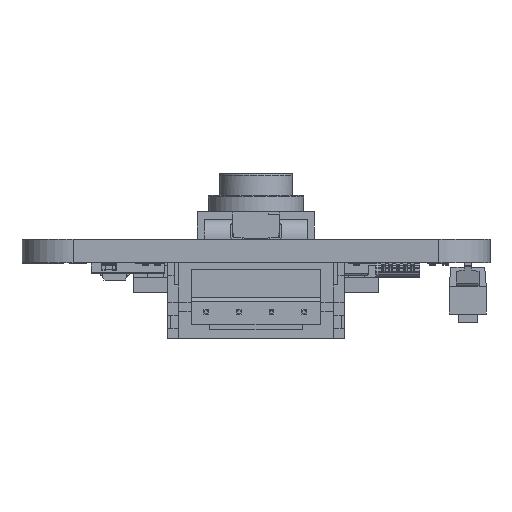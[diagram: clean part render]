
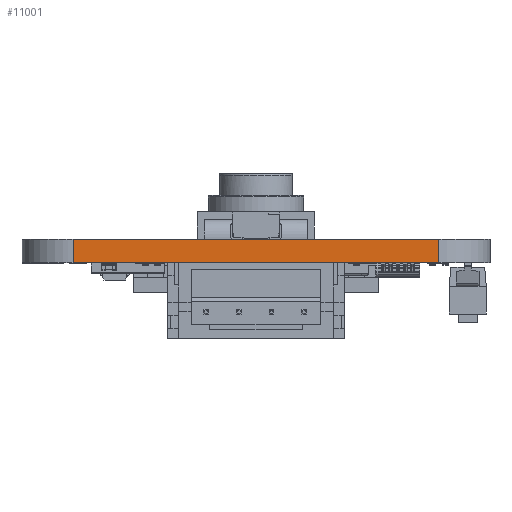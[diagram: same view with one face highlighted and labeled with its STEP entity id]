
A CAD part, front view. The second image highlights one B-rep face of the part: STEP entity #11001.
In plain terms, the highlighted planar face has unit normal (0, -1, 0).
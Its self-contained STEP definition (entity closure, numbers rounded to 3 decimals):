
#11001=ADVANCED_FACE('',(#17563),#102369,.T.);
#17563=FACE_OUTER_BOUND('',#24187,.T.);
#24187=EDGE_LOOP('',(#33462,#33463,#33464,#33465));
#33462=ORIENTED_EDGE('',*,*,#63962,.F.);
#33463=ORIENTED_EDGE('',*,*,#63964,.T.);
#33464=ORIENTED_EDGE('',*,*,#63965,.T.);
#33465=ORIENTED_EDGE('',*,*,#63966,.F.);
#63962=EDGE_CURVE('',#91883,#91884,#80056,.T.);
#63964=EDGE_CURVE('',#91883,#91885,#80057,.T.);
#63965=EDGE_CURVE('',#91885,#91886,#80058,.T.);
#63966=EDGE_CURVE('',#91884,#91886,#80059,.T.);
#80056=B_SPLINE_CURVE_WITH_KNOTS('',1,(#123704,#123705),.UNSPECIFIED.,.F.,
 .F.,(2,2),(0.,1.606),.UNSPECIFIED.);
#80057=B_SPLINE_CURVE_WITH_KNOTS('',1,(#123711,#123712),.UNSPECIFIED.,.F.,
 .F.,(2,2),(0.,25.),.UNSPECIFIED.);
#80058=B_SPLINE_CURVE_WITH_KNOTS('',1,(#123713,#123714),.UNSPECIFIED.,.F.,
 .F.,(2,2),(0.,1.606),.UNSPECIFIED.);
#80059=B_SPLINE_CURVE_WITH_KNOTS('',1,(#123715,#123716),.UNSPECIFIED.,.F.,
 .F.,(2,2),(-25.,0.),.UNSPECIFIED.);
#91883=VERTEX_POINT('',#123607);
#91884=VERTEX_POINT('',#123608);
#91885=VERTEX_POINT('',#123609);
#91886=VERTEX_POINT('',#123610);
#102369=PLANE('',#106141);
#106141=AXIS2_PLACEMENT_3D('',#123324,#109897,$);
#109897=DIRECTION('',(0.,-1.,0.));
#123324=CARTESIAN_POINT('',(-15.,-20.972,-1.767));
#123607=CARTESIAN_POINT('',(-12.5,-20.972,-1.606));
#123608=CARTESIAN_POINT('',(-12.5,-20.972,0.));
#123609=CARTESIAN_POINT('',(12.5,-20.972,-1.606));
#123610=CARTESIAN_POINT('',(12.5,-20.972,0.));
#123704=CARTESIAN_POINT('',(-12.5,-20.972,-1.606));
#123705=CARTESIAN_POINT('',(-12.5,-20.972,0.));
#123711=CARTESIAN_POINT('',(-12.5,-20.972,-1.606));
#123712=CARTESIAN_POINT('',(12.5,-20.972,-1.606));
#123713=CARTESIAN_POINT('',(12.5,-20.972,-1.606));
#123714=CARTESIAN_POINT('',(12.5,-20.972,0.));
#123715=CARTESIAN_POINT('',(-12.5,-20.972,0.));
#123716=CARTESIAN_POINT('',(12.5,-20.972,0.));
